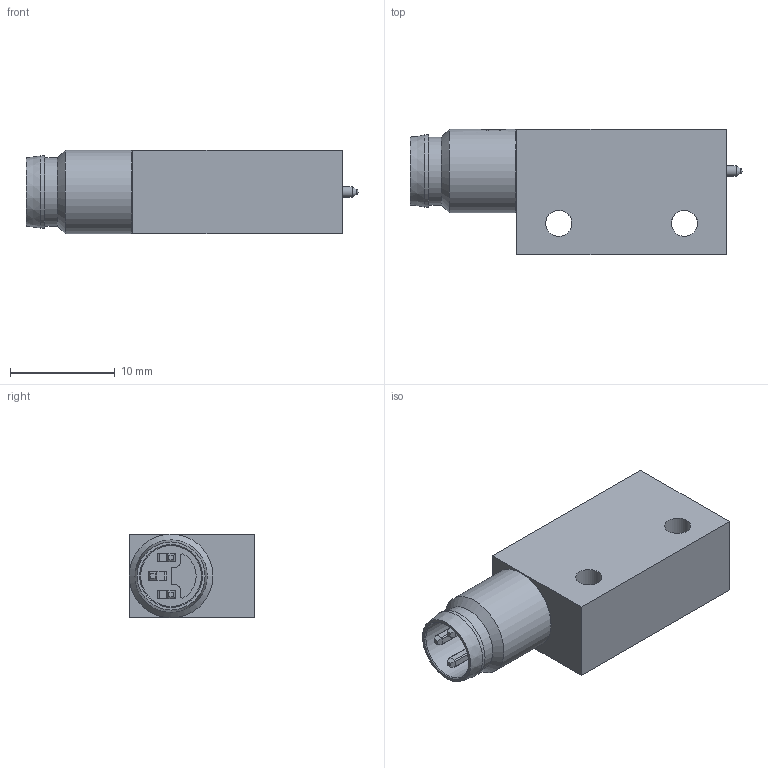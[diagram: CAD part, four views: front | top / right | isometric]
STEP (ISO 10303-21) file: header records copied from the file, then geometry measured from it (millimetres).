
FILE_DESCRIPTION( ( '' ), '1' );
FILE_NAME( '//baumernet.org/ch01apps/SolidEdge/Models/Dokumentationen/MyCom+MS/MyCom C/Vereinfachte Modelle/Neutralformate/MY COM_C_S35L.stp', '2010-11-08T08:30:20', ( 'cth' ), ( 'Baumer Electric' ), 'PSStep 10.0', 'Solid Edge', ' ' );
FILE_SCHEMA( ( 'AUTOMOTIVE_DESIGN { 1 0 10303 214 1 1 1 1 }' ) );
Length unit declared in the file: millimetre
Products named in the file (1): 118658
Bounding box: 31.7 x 12 x 8 mm (x, y, z)
Volume: 2147.3 mm3; surface area: 1516.5 mm2
Topology: 1 solids, 1 shells, 95 faces, 249 edges, 164 vertices
Faces by surface type: plane 59, cylinder 29, cone 6, sphere 1
Full cylindrical faces by diameter (mm): 1 x1, 2.5 x3, 5.8 x1, 6.5 x1, 6.9 x1, 8 x1
Entity records: 3103 total; most frequent: CARTESIAN_POINT 569, DIRECTION 493, ORIENTED_EDGE 466, EDGE_CURVE 233, AXIS2_PLACEMENT_3D 166, VERTEX_POINT 162, LINE 161, VECTOR 161
